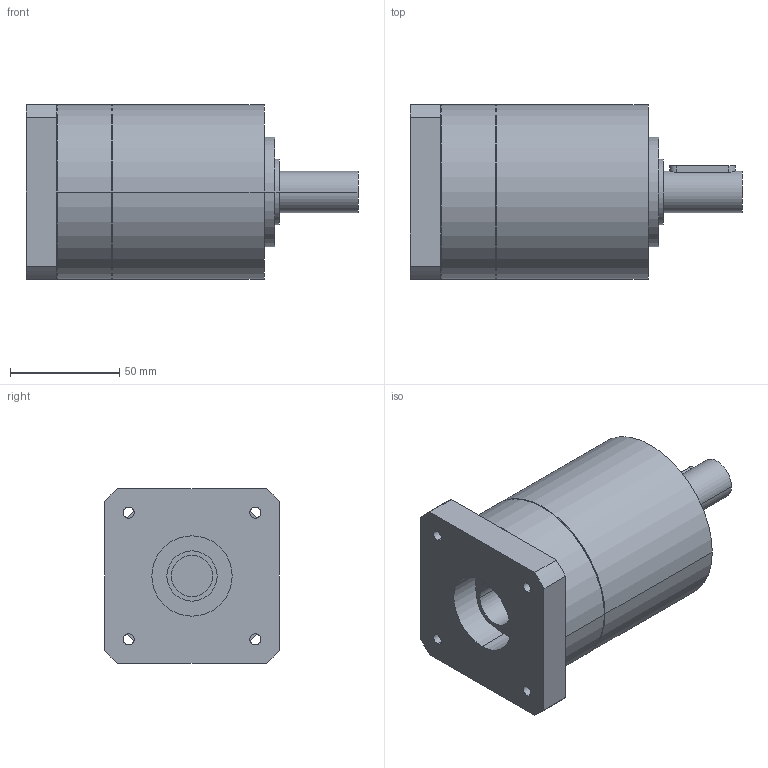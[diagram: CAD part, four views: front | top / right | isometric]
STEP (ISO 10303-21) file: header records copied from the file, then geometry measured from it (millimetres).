
FILE_DESCRIPTION(('CoCreate Modeling STEP Export'),'2;1');
FILE_NAME('GPR100_ig-3-4-5-6_19_B14_19_P27.stp','2014-08-26T10:08:54',(''),(''),'CoCreate Modeling STEP processor for AP214 (Solid Model)','CoCreate Modeling 16.00C 25-Feb-2009 (C) Parametric Technology GmbH','');
FILE_SCHEMA(('AUTOMOTIVE_DESIGN { 1 0 10303 214 1 1 1 1 }'));
Length unit declared in the file: millimetre
Products named in the file (2): GPR100_ig-3-4-5-6_19_B14_19_P27
Assembly tree (1 placements, depth 2):
  GPR100_ig-3-4-5-6_19_B14_19_P27
    GPR100_ig-3-4-5-6_19_B14_19_P27
Bounding box: 152 x 80 x 80 mm (x, y, z)
Volume: 562261.9 mm3; surface area: 50854.2 mm2
Topology: 1 solids, 1 shells, 71 faces, 196 edges, 134 vertices
Faces by surface type: cylinder 40, plane 25, cone 6
Entity records: 1957 total; most frequent: ORIENTED_EDGE 388, CARTESIAN_POINT 361, DIRECTION 262, EDGE_CURVE 194, VERTEX_POINT 134, AXIS2_PLACEMENT_3D 99, EDGE_LOOP 88, FACE_OUTER_BOUND 71
